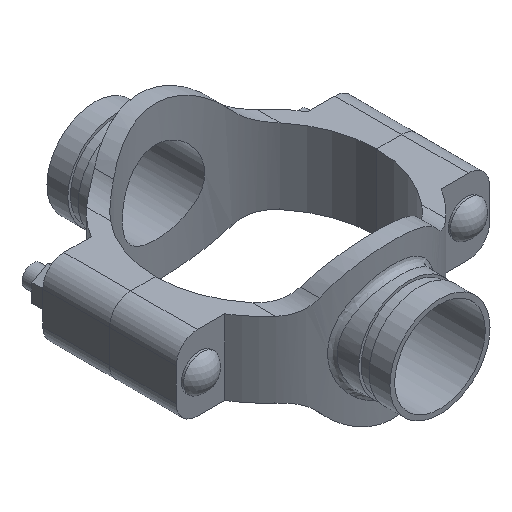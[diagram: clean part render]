
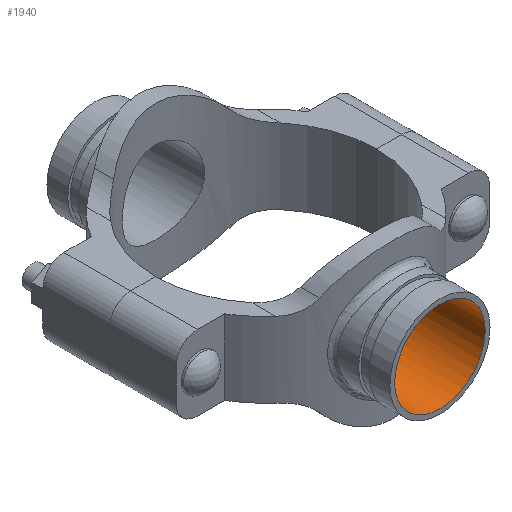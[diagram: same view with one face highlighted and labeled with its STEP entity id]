
A CAD part, isometric view. The second image highlights one B-rep face of the part: STEP entity #1940.
In plain terms, the highlighted cylindrical face has radius 34.493 mm (diameter 68.986 mm), a full revolution.
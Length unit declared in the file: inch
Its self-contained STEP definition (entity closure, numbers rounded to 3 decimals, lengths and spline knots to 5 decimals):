
#48=B_SPLINE_CURVE_WITH_KNOTS('',3,(#3900,#3901,#3902,#3903,#3904,#3905,
#3906,#3907,#3908,#3909,#3910,#3911,#3912,#3913,#3914,#3915,#3916,#3917,
#3918,#3919,#3920,#3921,#3922,#3923,#3924,#3925,#3926,#3927,#3928,#3929,
#3930,#3931,#3932,#3933,#3934,#3935,#3936,#3937,#3938,#3939,#3940,#3941,
#3942,#3943,#3944,#3945,#3946,#3947,#3948,#3949,#3950,#3951,#3952,#3953,
#3954,#3955,#3956,#3957,#3958,#3959,#3960,#3961,#3962,#3963,#3964,#3965),
 .UNSPECIFIED.,.T.,.F.,(4,2,2,2,2,2,2,2,2,2,2,2,2,2,2,2,2,2,2,2,2,2,2,2,
2,2,2,2,2,2,2,2,4),(0.,0.65854,1.31708,1.97562,
2.63416,3.29196,3.94976,4.60756,5.26536,
5.92316,6.58095,7.23875,7.89655,8.55509,
9.21363,9.87217,10.53071,11.18925,11.84779,
12.50633,13.16487,13.82267,14.48047,15.13827,
15.79607,16.45387,17.11167,17.76947,18.42727,
19.08581,19.74435,20.40289,21.06143),
 .UNSPECIFIED.);
#91=CYLINDRICAL_SURFACE('',#2173,1.358);
#206=FACE_OUTER_BOUND('',#326,.T.);
#326=EDGE_LOOP('',(#1556,#1557,#1558,#1559));
#474=LINE('',#3899,#620);
#620=VECTOR('',#2628,1.358);
#720=CIRCLE('',#2174,1.358);
#881=VERTEX_POINT('',#3896);
#882=VERTEX_POINT('',#3898);
#1120=EDGE_CURVE('',#881,#881,#720,.T.);
#1121=EDGE_CURVE('',#881,#882,#474,.T.);
#1122=EDGE_CURVE('',#882,#882,#48,.T.);
#1556=ORIENTED_EDGE('',*,*,#1120,.F.);
#1557=ORIENTED_EDGE('',*,*,#1121,.T.);
#1558=ORIENTED_EDGE('',*,*,#1122,.F.);
#1559=ORIENTED_EDGE('',*,*,#1121,.F.);
#1940=ADVANCED_FACE('',(#206),#91,.F.);
#2173=AXIS2_PLACEMENT_3D('',#3895,#2624,#2625);
#2174=AXIS2_PLACEMENT_3D('',#3897,#2626,#2627);
#2624=DIRECTION('center_axis',(0.,-1.,0.));
#2625=DIRECTION('ref_axis',(-1.,0.,0.));
#2626=DIRECTION('center_axis',(0.,-1.,0.));
#2627=DIRECTION('ref_axis',(-1.,0.,0.));
#2628=DIRECTION('',(0.,-1.,0.));
#3895=CARTESIAN_POINT('Origin',(0.,5.21,0.));
#3896=CARTESIAN_POINT('',(1.358,5.21,0.));
#3897=CARTESIAN_POINT('Origin',(0.,5.21,0.));
#3898=CARTESIAN_POINT('',(1.358,3.02134,0.));
#3899=CARTESIAN_POINT('',(1.358,5.21,0.));
#3900=CARTESIAN_POINT('Ctrl Pts',(1.358,3.02134,0.));
#3901=CARTESIAN_POINT('Ctrl Pts',(1.358,3.02134,-0.08642));
#3902=CARTESIAN_POINT('Ctrl Pts',(1.34962,3.02515,-0.17541));
#3903=CARTESIAN_POINT('Ctrl Pts',(1.31474,3.04047,-0.35172));
#3904=CARTESIAN_POINT('Ctrl Pts',(1.28825,3.05196,-0.43904));
#3905=CARTESIAN_POINT('Ctrl Pts',(1.21867,3.08041,-0.60596));
#3906=CARTESIAN_POINT('Ctrl Pts',(1.17552,3.09735,-0.68572));
#3907=CARTESIAN_POINT('Ctrl Pts',(1.07619,3.13325,-0.83298));
#3908=CARTESIAN_POINT('Ctrl Pts',(1.02001,3.15216,-0.9005));
#3909=CARTESIAN_POINT('Ctrl Pts',(0.90056,3.18834,-1.01994));
#3910=CARTESIAN_POINT('Ctrl Pts',(0.83308,3.20692,-1.07612));
#3911=CARTESIAN_POINT('Ctrl Pts',(0.6858,3.24161,-1.17547));
#3912=CARTESIAN_POINT('Ctrl Pts',(0.606,3.25769,-1.21865));
#3913=CARTESIAN_POINT('Ctrl Pts',(0.43898,3.28437,-1.28827));
#3914=CARTESIAN_POINT('Ctrl Pts',(0.35161,3.29497,-1.31477));
#3915=CARTESIAN_POINT('Ctrl Pts',(0.17528,3.30904,-1.34964));
#3916=CARTESIAN_POINT('Ctrl Pts',(0.08633,3.3125,-1.358));
#3917=CARTESIAN_POINT('Ctrl Pts',(-0.08633,3.3125,-1.358));
#3918=CARTESIAN_POINT('Ctrl Pts',(-0.17528,3.30904,-1.34964));
#3919=CARTESIAN_POINT('Ctrl Pts',(-0.35161,3.29497,-1.31477));
#3920=CARTESIAN_POINT('Ctrl Pts',(-0.43898,3.28437,-1.28827));
#3921=CARTESIAN_POINT('Ctrl Pts',(-0.606,3.25769,-1.21865));
#3922=CARTESIAN_POINT('Ctrl Pts',(-0.6858,3.24161,-1.17547));
#3923=CARTESIAN_POINT('Ctrl Pts',(-0.83308,3.20692,-1.07612));
#3924=CARTESIAN_POINT('Ctrl Pts',(-0.90056,3.18834,-1.01994));
#3925=CARTESIAN_POINT('Ctrl Pts',(-1.02001,3.15216,-0.9005));
#3926=CARTESIAN_POINT('Ctrl Pts',(-1.07619,3.13325,-0.83298));
#3927=CARTESIAN_POINT('Ctrl Pts',(-1.17552,3.09735,-0.68572));
#3928=CARTESIAN_POINT('Ctrl Pts',(-1.21867,3.08041,-0.60596));
#3929=CARTESIAN_POINT('Ctrl Pts',(-1.28825,3.05196,-0.43904));
#3930=CARTESIAN_POINT('Ctrl Pts',(-1.31474,3.04047,-0.35172));
#3931=CARTESIAN_POINT('Ctrl Pts',(-1.34962,3.02515,-0.17541));
#3932=CARTESIAN_POINT('Ctrl Pts',(-1.358,3.02134,-0.08642));
#3933=CARTESIAN_POINT('Ctrl Pts',(-1.358,3.02134,0.08642));
#3934=CARTESIAN_POINT('Ctrl Pts',(-1.34962,3.02515,0.17541));
#3935=CARTESIAN_POINT('Ctrl Pts',(-1.31474,3.04047,0.35172));
#3936=CARTESIAN_POINT('Ctrl Pts',(-1.28825,3.05196,0.43904));
#3937=CARTESIAN_POINT('Ctrl Pts',(-1.21867,3.08041,0.60596));
#3938=CARTESIAN_POINT('Ctrl Pts',(-1.17552,3.09735,0.68572));
#3939=CARTESIAN_POINT('Ctrl Pts',(-1.07619,3.13325,0.83298));
#3940=CARTESIAN_POINT('Ctrl Pts',(-1.02001,3.15216,0.9005));
#3941=CARTESIAN_POINT('Ctrl Pts',(-0.90056,3.18834,1.01994));
#3942=CARTESIAN_POINT('Ctrl Pts',(-0.83308,3.20692,1.07612));
#3943=CARTESIAN_POINT('Ctrl Pts',(-0.6858,3.24161,1.17547));
#3944=CARTESIAN_POINT('Ctrl Pts',(-0.606,3.25769,1.21865));
#3945=CARTESIAN_POINT('Ctrl Pts',(-0.43898,3.28437,1.28827));
#3946=CARTESIAN_POINT('Ctrl Pts',(-0.35161,3.29497,1.31477));
#3947=CARTESIAN_POINT('Ctrl Pts',(-0.17528,3.30904,1.34964));
#3948=CARTESIAN_POINT('Ctrl Pts',(-0.08633,3.3125,1.358));
#3949=CARTESIAN_POINT('Ctrl Pts',(0.08633,3.3125,1.358));
#3950=CARTESIAN_POINT('Ctrl Pts',(0.17528,3.30904,1.34964));
#3951=CARTESIAN_POINT('Ctrl Pts',(0.35161,3.29497,1.31477));
#3952=CARTESIAN_POINT('Ctrl Pts',(0.43898,3.28437,1.28827));
#3953=CARTESIAN_POINT('Ctrl Pts',(0.606,3.25769,1.21865));
#3954=CARTESIAN_POINT('Ctrl Pts',(0.6858,3.24161,1.17547));
#3955=CARTESIAN_POINT('Ctrl Pts',(0.83308,3.20692,1.07612));
#3956=CARTESIAN_POINT('Ctrl Pts',(0.90056,3.18834,1.01994));
#3957=CARTESIAN_POINT('Ctrl Pts',(1.02001,3.15216,0.9005));
#3958=CARTESIAN_POINT('Ctrl Pts',(1.07619,3.13325,0.83298));
#3959=CARTESIAN_POINT('Ctrl Pts',(1.17552,3.09735,0.68572));
#3960=CARTESIAN_POINT('Ctrl Pts',(1.21867,3.08041,0.60596));
#3961=CARTESIAN_POINT('Ctrl Pts',(1.28825,3.05196,0.43904));
#3962=CARTESIAN_POINT('Ctrl Pts',(1.31474,3.04047,0.35172));
#3963=CARTESIAN_POINT('Ctrl Pts',(1.34962,3.02515,0.17541));
#3964=CARTESIAN_POINT('Ctrl Pts',(1.358,3.02134,0.08642));
#3965=CARTESIAN_POINT('Ctrl Pts',(1.358,3.02134,0.));
